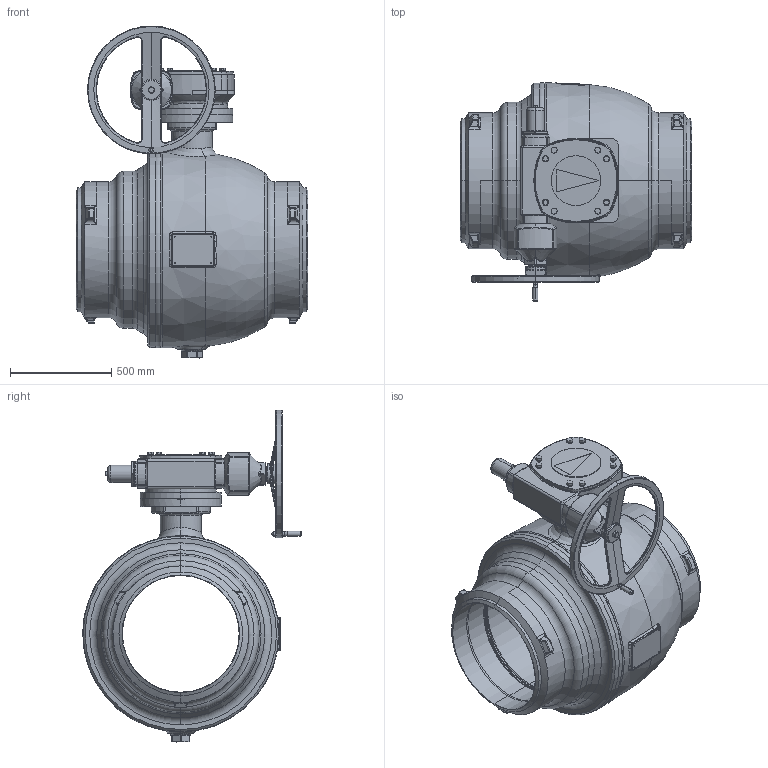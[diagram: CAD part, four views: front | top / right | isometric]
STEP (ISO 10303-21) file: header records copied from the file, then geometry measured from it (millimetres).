
FILE_DESCRIPTION((''),'2;1');
FILE_NAME('ASM0019_ASM','2016-04-29T',('schwaba'),('RAND'),'PRO/ENGINEER BY PARAMETRIC TECHNOLOGY CORPORATION, 2013410','PRO/ENGINEER BY PARAMETRIC TECHNOLOGY CORPORATION, 2013410','');
FILE_SCHEMA(('CONFIG_CONTROL_DESIGN'));
Length unit declared in the file: millimetre
Products named in the file (7): KHISL600VSL600P040MKK_SW0001; PRT0024; PRT0025; AHR_630_30_M_BALLENGRIFF_1; ASM0006_ASM_1_ASM; GS200_600_ASM; ASM0019_ASM
Assembly tree (6 placements, depth 4):
  ASM0019_ASM
    KHISL600VSL600P040MKK_SW0001
    GS200_600_ASM
      ASM0006_ASM_1_ASM
        PRT0024
        PRT0025
        AHR_630_30_M_BALLENGRIFF_1
Bounding box: 1143 x 1077.66 x 1636 mm (x, y, z)
Volume: 240972118 mm3; surface area: 14071579.3 mm2
Topology: 4 solids, 13 shells, 2453 faces, 6179 edges, 3869 vertices
Faces by surface type: plane 1164, cylinder 519, bspline 254, torus 252, cone 220, sphere 44
Entity records: 148087 total; most frequent: CARTESIAN_POINT 92310, ORIENTED_EDGE 12282, DIRECTION 10732, EDGE_CURVE 6141, AXIS2_PLACEMENT_3D 4377, VERTEX_POINT 3869, EDGE_LOOP 2708, FACE_OUTER_BOUND 2453
